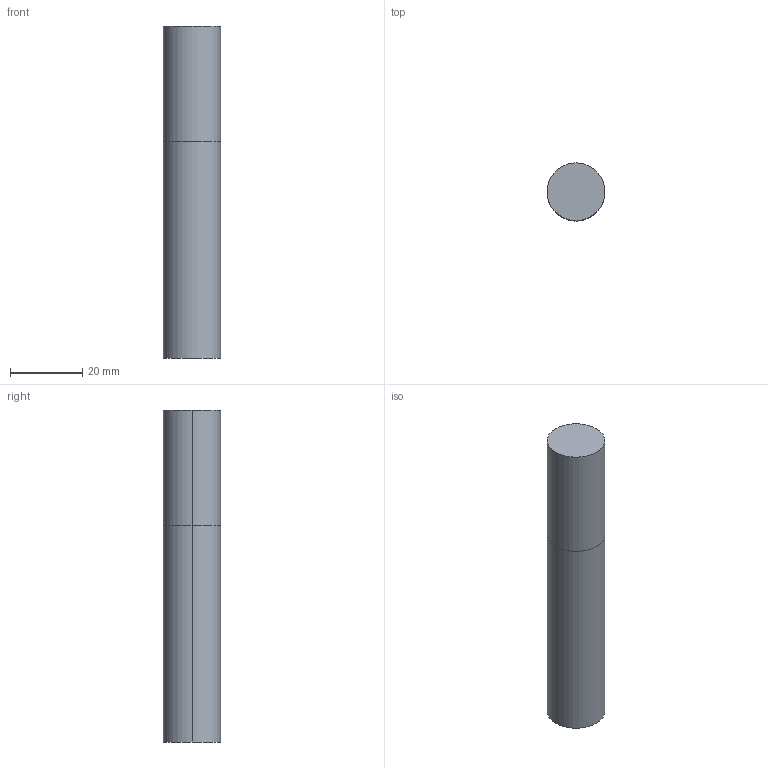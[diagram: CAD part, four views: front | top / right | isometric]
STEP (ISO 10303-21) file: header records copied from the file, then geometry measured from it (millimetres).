
FILE_DESCRIPTION(('STEP AP214'),'1');
FILE_NAME('cctmp_09211507-84AB-4297-8B93-5FE12EA195BA_2020_09_30_16_00_35_0586..stp','2020-09-30T14:00:35',('Meusburger Georg GmbH & Co KG'),('CADClick - www.CADClick.com'),'Spatial InterOp 3D',' ','unknown authorization');
FILE_SCHEMA(('AUTOMOTIVE_DESIGN { 1 0 10303 214 1 1 1 1 }'));
Length unit declared in the file: millimetre
Products named in the file (1): WZF13242P_16
Bounding box: 16 x 16 x 92 mm (x, y, z)
Volume: 18497.7 mm3; surface area: 5027.6 mm2
Topology: 1 solids, 1 shells, 10 faces, 18 edges, 12 vertices
Faces by surface type: cylinder 6, plane 4
Entity records: 358 total; most frequent: DIRECTION 52, CARTESIAN_POINT 41, ORIENTED_EDGE 36, AXIS2_PLACEMENT_3D 23, EDGE_CURVE 18, EDGE_LOOP 12, VERTEX_POINT 12, CIRCLE 12
